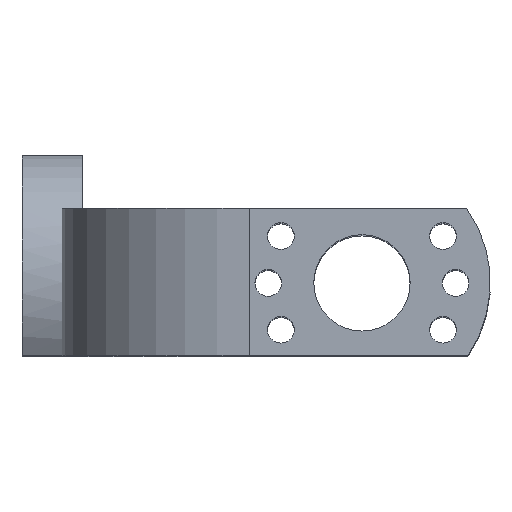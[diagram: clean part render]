
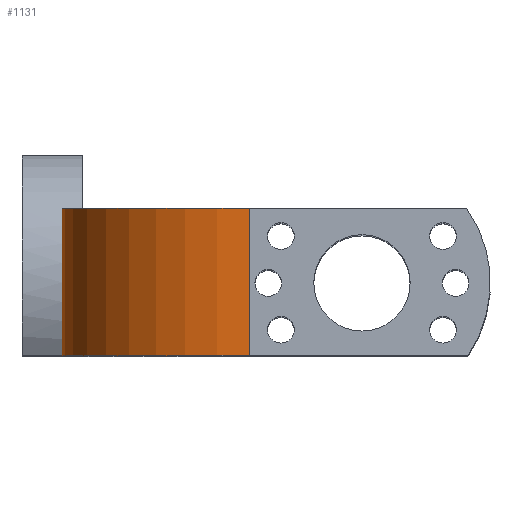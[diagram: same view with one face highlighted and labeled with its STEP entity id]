
A CAD part, top view. The second image highlights one B-rep face of the part: STEP entity #1131.
In plain terms, the highlighted cylindrical face has radius 14 mm (diameter 28 mm), a partial arc.
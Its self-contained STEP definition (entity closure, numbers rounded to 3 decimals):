
#142=FACE_OUTER_BOUND('',#245,.T.);
#245=EDGE_LOOP('',(#1033,#1034,#1035,#1036));
#250=CIRCLE('',#1154,14.);
#284=CIRCLE('',#1215,14.);
#375=LINE('',#1831,#452);
#391=LINE('',#1900,#468);
#452=VECTOR('',#1487,10.);
#468=VECTOR('',#1571,10.);
#486=VERTEX_POINT('',#1659);
#487=VERTEX_POINT('',#1661);
#535=VERTEX_POINT('',#1807);
#536=VERTEX_POINT('',#1809);
#590=EDGE_CURVE('',#486,#487,#250,.T.);
#662=EDGE_CURVE('',#535,#536,#284,.T.);
#673=EDGE_CURVE('',#487,#535,#375,.T.);
#707=EDGE_CURVE('',#486,#536,#391,.T.);
#1033=ORIENTED_EDGE('',*,*,#662,.F.);
#1034=ORIENTED_EDGE('',*,*,#673,.F.);
#1035=ORIENTED_EDGE('',*,*,#590,.F.);
#1036=ORIENTED_EDGE('',*,*,#707,.T.);
#1073=CYLINDRICAL_SURFACE('',#1280,14.);
#1131=ADVANCED_FACE('',(#142),#1073,.T.);
#1154=AXIS2_PLACEMENT_3D('',#1662,#1308,#1309);
#1215=AXIS2_PLACEMENT_3D('',#1810,#1468,#1469);
#1280=AXIS2_PLACEMENT_3D('',#1947,#1629,#1630);
#1308=DIRECTION('center_axis',(0.,-1.,0.));
#1309=DIRECTION('ref_axis',(-1.,0.,0.));
#1468=DIRECTION('center_axis',(0.,1.,0.));
#1469=DIRECTION('ref_axis',(-1.,0.,0.));
#1487=DIRECTION('',(0.,1.,0.));
#1571=DIRECTION('',(0.,1.,0.));
#1629=DIRECTION('center_axis',(0.,-1.,0.));
#1630=DIRECTION('ref_axis',(-1.,0.,0.));
#1659=CARTESIAN_POINT('',(-28.411,41.097,-7.55));
#1661=CARTESIAN_POINT('',(-42.411,41.097,-21.55));
#1662=CARTESIAN_POINT('Origin',(-28.411,41.097,-21.55));
#1807=CARTESIAN_POINT('',(-42.411,52.097,-21.55));
#1809=CARTESIAN_POINT('',(-28.411,52.097,-7.55));
#1810=CARTESIAN_POINT('Origin',(-28.411,52.097,-21.55));
#1831=CARTESIAN_POINT('',(-42.411,52.097,-21.55));
#1900=CARTESIAN_POINT('',(-28.411,52.097,-7.55));
#1947=CARTESIAN_POINT('Origin',(-28.411,52.097,-21.55));
